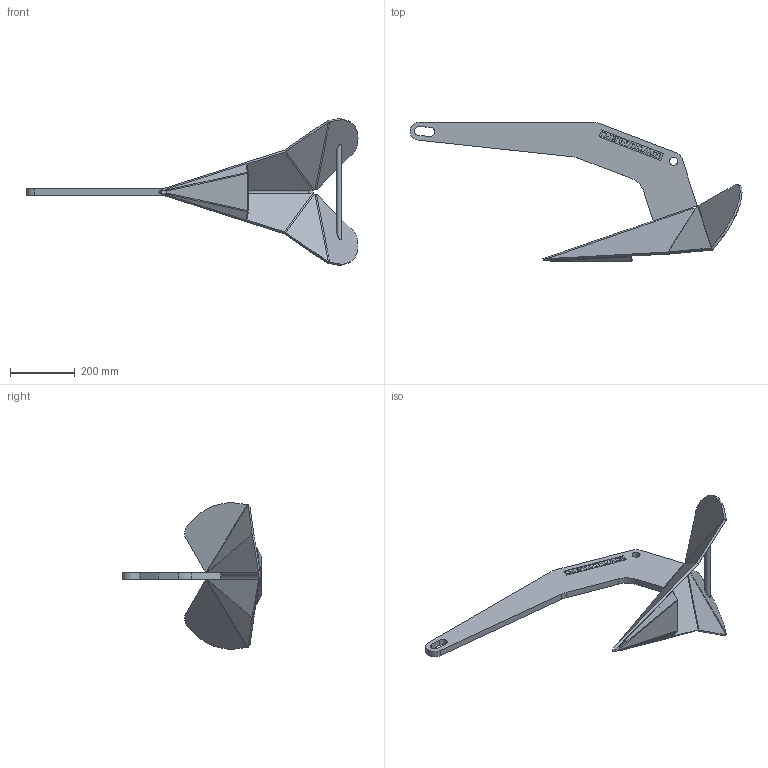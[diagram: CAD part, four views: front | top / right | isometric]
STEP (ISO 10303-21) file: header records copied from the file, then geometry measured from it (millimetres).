
FILE_DESCRIPTION((''),'2;1');
FILE_NAME('69000525_ASM','2013-01-08T',('mdance'),(''),'PRO/ENGINEER BY PARAMETRIC TECHNOLOGY CORPORATION, 2010280','PRO/ENGINEER BY PARAMETRIC TECHNOLOGY CORPORATION, 2010280','');
FILE_SCHEMA(('CONFIG_CONTROL_DESIGN'));
Length unit declared in the file: millimetre
Products named in the file (7): 65001962; 65001963; 65001965; 65001966; 65001964; BALLAST_32KG_DTX; 69000525_ASM
Assembly tree (6 placements, depth 2):
  69000525_ASM
    65001962
    65001963
    65001965
    65001966
    65001964
    BALLAST_32KG_DTX
Bounding box: 1025.96 x 431.92 x 455.21 mm (x, y, z)
Volume: 4044231.5 mm3; surface area: 753990.4 mm2
Topology: 6 solids, 6 shells, 1373 faces, 3844 edges, 2548 vertices
Faces by surface type: plane 1307, cylinder 32, bspline 20, extrusion 14
Entity records: 44266 total; most frequent: CARTESIAN_POINT 8893, ORIENTED_EDGE 7688, DIRECTION 6520, EDGE_CURVE 3844, VECTOR 3744, LINE 3730, VERTEX_POINT 2548, EDGE_LOOP 1446
